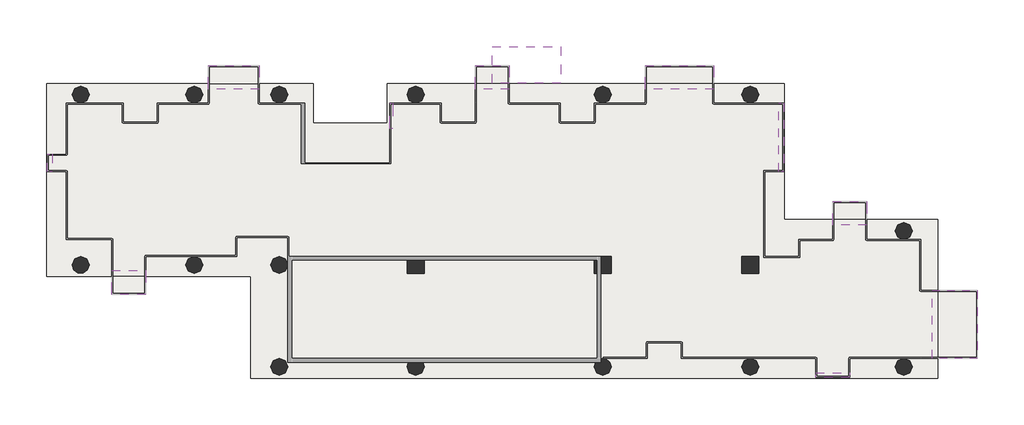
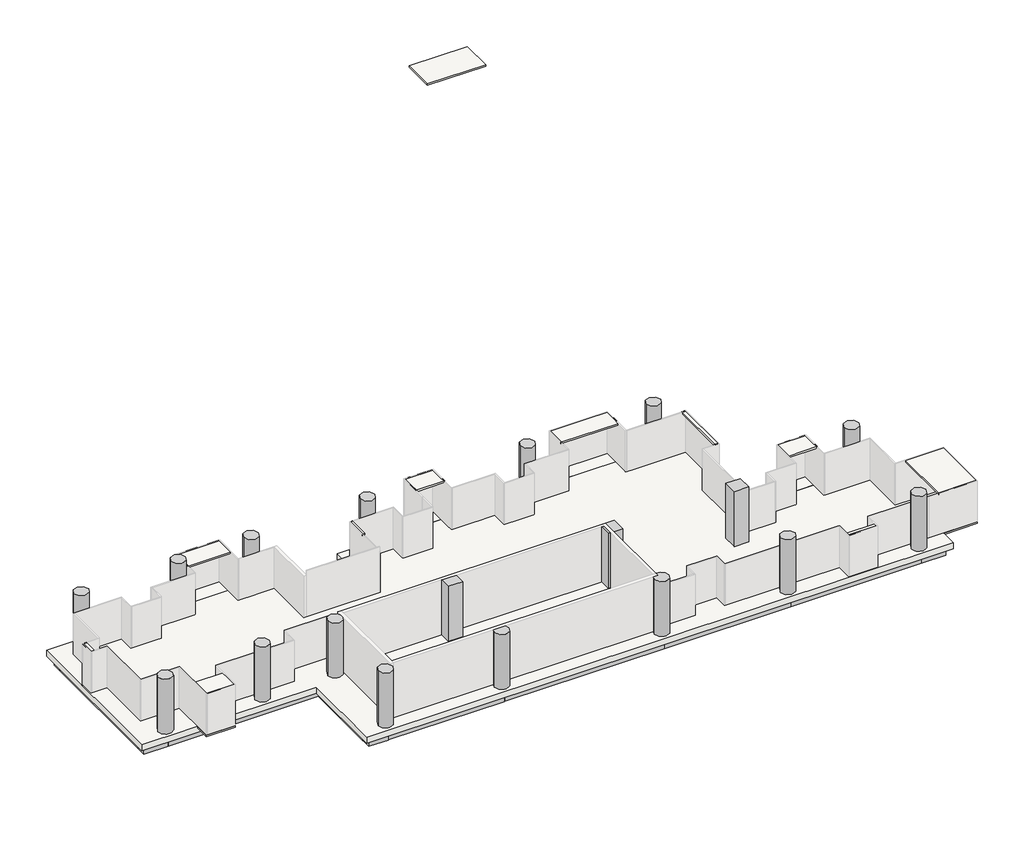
# One storey, part 2 of 2: 40 slabs, 25 beams, 18 columns.
"""IFC4 building model written with IfcOpenShell, lengths in millimetres."""

from ifc_helpers import new_model, si_unit, point, frame, frame_2d, origin, place, context, project, spatial, polyline, circle_curve, trimmed, segment, composite_curve, outline, extrude, transform, mapped, element, save
from ifc_brep_helpers import plane_surface, cylinder_surface, advanced_brep
from components import ajn_arc_ossature_rec_ba_700x600_5242ffbb, ajn_arc_ossature_rec_ba_700x600_213c05e2, ajn_arc_ossature_rec_ba_700x600_4d623bda, ajn_arc_ossature_rec_ba_700x600_c2a8f1af, ajn_arc_ossature_rec_ba_700x600_b2f97811, ajn_arc_ossature_rec_ba_700x600_e688680c, ajn_arc_ossature_rec_ba_700x600_8adee879, ajn_arc_ossature_rec_ba_700x600_6677e51c, ajn_arc_ossature_rec_ba_700x600_60e35d56, ajn_arc_ossature_rec_ba_700x600_9ae0f913, ajn_arc_ossature_rec_ba_700x600_5c14351b, ajn_arc_ossature_rec_ba_700x600_e883967f, ajn_arc_ossature_rec_ba_700x600_0984b03c, ajn_arc_ossature_rec_ba_700x600_78f846f2, ajn_arc_ossature_rec_ba_700x600_e869caa8, ajn_arc_ossature_rec_ba_700x600_0388eb48, ajn_arc_ossature_rec_ba_700x600_e143517c, ajn_arc_ossature_rec_ba_700x600_758f1bfa, ajn_arc_ossature_rec_ba_700x600_64ba80e1, ajn_arc_poteau_circulaire_9c1f96e0

model = new_model("IFC4")

# Units and contexts
model_context = context("Model", 3, world=origin())
ifc_project = project(units=[si_unit("LENGTHUNIT", "METRE", prefix="MILLI")], contexts=[model_context])

# Site, building, storey
site = spatial("IfcSite", under=ifc_project)
building = spatial("IfcBuilding", under=site)
storey = spatial("IfcBuildingStorey", under=building, Name="TW-L 10", Elevation=35199.9999686)

# Beams
placement = place(None, origin())
ajn_arc_ossature_rec_ba_700x600_shape = ajn_arc_ossature_rec_ba_700x600_5242ffbb(model_context)
element("IfcBeam", 1, ObjectType="AJN-ARC-OSSATURE REC-BA : 700x600", at=placement, inside=storey, context=model_context, shape_type="MappedRepresentation", body=[
    mapped(ajn_arc_ossature_rec_ba_700x600_shape, transform((119350.0, 39300.0, 34649.9999686), x_axis=(-1.0, 0.0, 0.0), y_axis=(0.0, -1.0, 0.0), z_axis=(0.0, 0.0, 1.0))),
])
ajn_arc_ossature_rec_ba_700x600_2_shape = ajn_arc_ossature_rec_ba_700x600_213c05e2(model_context)
element("IfcBeam", 2, ObjectType="AJN-ARC-OSSATURE REC-BA : 700x600", at=placement, inside=storey, context=model_context, shape_type="MappedRepresentation", body=[
    mapped(ajn_arc_ossature_rec_ba_700x600_2_shape, transform((100900.0, 34800.0, 34649.9999686), x_axis=(0.0, -1.0, 0.0), y_axis=(1.0, 0.0, 0.0), z_axis=(0.0, 0.0, 1.0))),
])
ajn_arc_ossature_rec_ba_700x600_3_shape = ajn_arc_ossature_rec_ba_700x600_4d623bda(model_context)
element("IfcBeam", 3, ObjectType="AJN-ARC-OSSATURE REC-BA : 700x600", at=placement, inside=storey, context=model_context, shape_type="MappedRepresentation", body=[
    mapped(ajn_arc_ossature_rec_ba_700x600_3_shape, transform((112150.0, 24900.0, 34649.9999686), x_axis=(1.0, 0.0, 0.0), y_axis=(0.0, 1.0, 0.0), z_axis=(0.0, 0.0, 1.0))),
])
ajn_arc_ossature_rec_ba_700x600_4_shape = ajn_arc_ossature_rec_ba_700x600_c2a8f1af(model_context)
element("IfcBeam", 4, ObjectType="AJN-ARC-OSSATURE REC-BA : 700x600", at=placement, inside=storey, context=model_context, shape_type="MappedRepresentation", body=[
    mapped(ajn_arc_ossature_rec_ba_700x600_4_shape, transform((116200.0, 24900.0, 34649.9999686), x_axis=(1.0, 0.0, 0.0), y_axis=(0.0, 1.0, 0.0), z_axis=(0.0, 0.0, 1.0))),
])
ajn_arc_ossature_rec_ba_700x600_5_shape = ajn_arc_ossature_rec_ba_700x600_b2f97811(model_context)
element("IfcBeam", 5, ObjectType="AJN-ARC-OSSATURE REC-BA : 700x600", at=placement, inside=storey, context=model_context, shape_type="MappedRepresentation", body=[
    mapped(ajn_arc_ossature_rec_ba_700x600_5_shape, transform((106900.0, 30300.0, 34649.9999686), x_axis=(1.0, 0.0, 0.0), y_axis=(0.0, 1.0, 0.0), z_axis=(0.0, 0.0, 1.0))),
])
ajn_arc_ossature_rec_ba_700x600_6_shape = ajn_arc_ossature_rec_ba_700x600_e688680c(model_context)
element("IfcBeam", 6, ObjectType="AJN-ARC-OSSATURE REC-BA : 700x600", at=placement, inside=storey, context=model_context, shape_type="MappedRepresentation", body=[
    mapped(ajn_arc_ossature_rec_ba_700x600_6_shape, transform((111700.0, 27600.0, 34649.9999686), x_axis=(0.0, -1.0, 0.0), y_axis=(1.0, 0.0, 0.0), z_axis=(0.0, 0.0, 1.0))),
])
ajn_arc_ossature_rec_ba_700x600_7_shape = ajn_arc_ossature_rec_ba_700x600_8adee879(model_context)
element("IfcBeam", 7, ObjectType="AJN-ARC-OSSATURE REC-BA : 700x600", at=placement, inside=storey, context=model_context, shape_type="MappedRepresentation", body=[
    mapped(ajn_arc_ossature_rec_ba_700x600_7_shape, transform((124750.0, 24900.0, 34649.9999686), x_axis=(1.0, 0.0, 0.0), y_axis=(0.0, 1.0, 0.0), z_axis=(0.0, 0.0, 1.0))),
])
element("IfcBeam", 8, ObjectType="AJN-ARC-OSSATURE REC-BA : 700x600", at=placement, inside=storey, context=model_context, shape_type="MappedRepresentation", body=[
    mapped(ajn_arc_ossature_rec_ba_700x600_7_shape, transform((124750.0, 39300.0, 34649.9999686), x_axis=(-1.0, 0.0, 0.0), y_axis=(0.0, -1.0, 0.0), z_axis=(0.0, 0.0, 1.0))),
])
ajn_arc_ossature_rec_ba_700x600_8_shape = ajn_arc_ossature_rec_ba_700x600_6677e51c(model_context)
element("IfcBeam", 9, ObjectType="AJN-ARC-OSSATURE REC-BA : 700x600", at=placement, inside=storey, context=model_context, shape_type="MappedRepresentation", body=[
    mapped(ajn_arc_ossature_rec_ba_700x600_8_shape, transform((133600.0, 24900.0, 34649.9999686), x_axis=(1.0, 0.0, 0.0), y_axis=(0.0, 1.0, 0.0), z_axis=(0.0, 0.0, 1.0))),
])
ajn_arc_ossature_rec_ba_700x600_9_shape = ajn_arc_ossature_rec_ba_700x600_60e35d56(model_context)
element("IfcBeam", 10, ObjectType="AJN-ARC-OSSATURE REC-BA : 700x600", at=placement, inside=storey, context=model_context, shape_type="MappedRepresentation", body=[
    mapped(ajn_arc_ossature_rec_ba_700x600_9_shape, transform((141550.0, 24900.0, 34649.9999686), x_axis=(1.0, 0.0, 0.0), y_axis=(0.0, 1.0, 0.0), z_axis=(0.0, 0.0, 1.0))),
])
ajn_arc_ossature_rec_ba_700x600_10_shape = ajn_arc_ossature_rec_ba_700x600_9ae0f913(model_context)
element("IfcBeam", 11, ObjectType="AJN-ARC-OSSATURE REC-BA : 700x600", at=placement, inside=storey, context=model_context, shape_type="MappedRepresentation", body=[
    mapped(ajn_arc_ossature_rec_ba_700x600_10_shape, transform((146200.0, 24900.0, 34649.9999686), x_axis=(1.0, 0.0, 0.0), y_axis=(0.0, 1.0, 0.0), z_axis=(0.0, 0.0, 1.0))),
])
element("IfcBeam", 12, ObjectType="AJN-ARC-OSSATURE REC-BA : 700x600", at=placement, inside=storey, context=model_context, shape_type="MappedRepresentation", body=[
    mapped(ajn_arc_ossature_rec_ba_700x600_10_shape, transform((101500.0, 39300.0, 34649.9999686), x_axis=(-1.0, 0.0, 0.0), y_axis=(0.0, -1.0, 0.0), z_axis=(0.0, 0.0, 1.0))),
])
ajn_arc_ossature_rec_ba_700x600_11_shape = ajn_arc_ossature_rec_ba_700x600_5c14351b(model_context)
element("IfcBeam", 13, ObjectType="AJN-ARC-OSSATURE REC-BA : 700x600", at=placement, inside=storey, context=model_context, shape_type="MappedRepresentation", body=[
    mapped(ajn_arc_ossature_rec_ba_700x600_11_shape, transform((146800.0, 28500.0, 34649.9999686), x_axis=(0.0, 1.0, 0.0), y_axis=(-1.0, 0.0, 0.0), z_axis=(0.0, 0.0, 1.0))),
])
element("IfcBeam", 14, ObjectType="AJN-ARC-OSSATURE REC-BA : 700x600", at=placement, inside=storey, context=model_context, shape_type="MappedRepresentation", body=[
    mapped(ajn_arc_ossature_rec_ba_700x600_11_shape, transform((138700.0, 35700.0, 34649.9999686), x_axis=(0.0, 1.0, 0.0), y_axis=(-1.0, 0.0, 0.0), z_axis=(0.0, 0.0, 1.0))),
])
ajn_arc_ossature_rec_ba_700x600_12_shape = ajn_arc_ossature_rec_ba_700x600_e883967f(model_context)
element("IfcBeam", 15, ObjectType="AJN-ARC-OSSATURE REC-BA : 700x600", at=placement, inside=storey, context=model_context, shape_type="MappedRepresentation", body=[
    mapped(ajn_arc_ossature_rec_ba_700x600_12_shape, transform((146200.0, 32100.0, 34649.9999686), x_axis=(-1.0, 0.0, 0.0), y_axis=(0.0, -1.0, 0.0), z_axis=(0.0, 0.0, 1.0))),
])
element("IfcBeam", 16, ObjectType="AJN-ARC-OSSATURE REC-BA : 700x600", at=placement, inside=storey, context=model_context, shape_type="MappedRepresentation", body=[
    mapped(ajn_arc_ossature_rec_ba_700x600_12_shape, transform((138100.0, 39300.0, 34649.9999686), x_axis=(-1.0, 0.0, 0.0), y_axis=(0.0, -1.0, 0.0), z_axis=(0.0, 0.0, 1.0))),
])
element("IfcBeam", 17, ObjectType="AJN-ARC-OSSATURE REC-BA : 700x600", at=placement, inside=storey, context=model_context, shape_type="MappedRepresentation", body=[
    mapped(ajn_arc_ossature_rec_ba_700x600_12_shape, transform((113200.0, 39300.0, 34649.9999686), x_axis=(-1.0, 0.0, 0.0), y_axis=(0.0, -1.0, 0.0), z_axis=(0.0, 0.0, 1.0))),
])
element("IfcBeam", 18, ObjectType="AJN-ARC-OSSATURE REC-BA : 700x600", at=placement, inside=storey, context=model_context, shape_type="MappedRepresentation", body=[
    mapped(ajn_arc_ossature_rec_ba_700x600_12_shape, transform((101500.0, 30300.0, 34649.9999686), x_axis=(1.0, 0.0, 0.0), y_axis=(0.0, 1.0, 0.0), z_axis=(0.0, 0.0, 1.0))),
])
ajn_arc_ossature_rec_ba_700x600_13_shape = ajn_arc_ossature_rec_ba_700x600_0984b03c(model_context)
element("IfcBeam", 19, ObjectType="AJN-ARC-OSSATURE REC-BA : 700x600", at=placement, inside=storey, context=model_context, shape_type="MappedRepresentation", body=[
    mapped(ajn_arc_ossature_rec_ba_700x600_13_shape, transform((142150.0, 32100.0, 34649.9999686), x_axis=(-1.0, 0.0, 0.0), y_axis=(0.0, -1.0, 0.0), z_axis=(0.0, 0.0, 1.0))),
])
ajn_arc_ossature_rec_ba_700x600_14_shape = ajn_arc_ossature_rec_ba_700x600_78f846f2(model_context)
element("IfcBeam", 20, ObjectType="AJN-ARC-OSSATURE REC-BA : 700x600", at=placement, inside=storey, context=model_context, shape_type="MappedRepresentation", body=[
    mapped(ajn_arc_ossature_rec_ba_700x600_14_shape, transform((133600.0, 39300.0, 34649.9999686), x_axis=(-1.0, 0.0, 0.0), y_axis=(0.0, -1.0, 0.0), z_axis=(0.0, 0.0, 1.0))),
])
ajn_arc_ossature_rec_ba_700x600_15_shape = ajn_arc_ossature_rec_ba_700x600_e869caa8(model_context)
element("IfcBeam", 21, ObjectType="AJN-ARC-OSSATURE REC-BA : 700x600", at=placement, inside=storey, context=model_context, shape_type="MappedRepresentation", body=[
    mapped(ajn_arc_ossature_rec_ba_700x600_15_shape, transform((118900.0, 38250.0, 34649.9999686), x_axis=(0.0, -1.0, 0.0), y_axis=(1.0, 0.0, 0.0), z_axis=(0.0, 0.0, 1.0))),
])
ajn_arc_ossature_rec_ba_700x600_16_shape = ajn_arc_ossature_rec_ba_700x600_0388eb48(model_context)
element("IfcBeam", 22, ObjectType="AJN-ARC-OSSATURE REC-BA : 700x600", at=placement, inside=storey, context=model_context, shape_type="MappedRepresentation", body=[
    mapped(ajn_arc_ossature_rec_ba_700x600_16_shape, transform((110350.0, 39300.0, 34649.9999686), x_axis=(-1.0, 0.0, 0.0), y_axis=(0.0, -1.0, 0.0), z_axis=(0.0, 0.0, 1.0))),
])
ajn_arc_ossature_rec_ba_700x600_17_shape = ajn_arc_ossature_rec_ba_700x600_e143517c(model_context)
element("IfcBeam", 23, ObjectType="AJN-ARC-OSSATURE REC-BA : 700x600", at=placement, inside=storey, context=model_context, shape_type="MappedRepresentation", body=[
    mapped(ajn_arc_ossature_rec_ba_700x600_17_shape, transform((105100.0, 39300.0, 34649.9999686), x_axis=(-1.0, 0.0, 0.0), y_axis=(0.0, -1.0, 0.0), z_axis=(0.0, 0.0, 1.0))),
])
ajn_arc_ossature_rec_ba_700x600_18_shape = ajn_arc_ossature_rec_ba_700x600_758f1bfa(model_context)
element("IfcBeam", 24, ObjectType="AJN-ARC-OSSATURE REC-BA : 700x600", at=placement, inside=storey, context=model_context, shape_type="MappedRepresentation", body=[
    mapped(ajn_arc_ossature_rec_ba_700x600_18_shape, transform((116350.0, 37200.0, 34649.9999686), x_axis=(-1.0, 0.0, 0.0), y_axis=(0.0, -1.0, 0.0), z_axis=(0.0, 0.0, 1.0))),
])
ajn_arc_ossature_rec_ba_700x600_19_shape = ajn_arc_ossature_rec_ba_700x600_64ba80e1(model_context)
element("IfcBeam", 25, ObjectType="AJN-ARC-OSSATURE REC-BA : 700x600", at=placement, inside=storey, context=model_context, shape_type="MappedRepresentation", body=[
    mapped(ajn_arc_ossature_rec_ba_700x600_19_shape, transform((113800.0, 38250.0, 34649.9999686), x_axis=(0.0, 1.0, 0.0), y_axis=(-1.0, 0.0, 0.0), z_axis=(0.0, 0.0, 1.0))),
])

# Columns
element("IfcColumn", 26, ObjectType="AJN-ARC-POTEAU CIRCULAIRE : ø90", at=placement, inside=storey, context=model_context, shape_type="SweptSolid", body=[
    extrude(outline(composite_curve([segment(trimmed(circle_curve(frame_2d((102100.0, 39300.0)), 450.0), [point((101650.0, 39300.0))], [point((102550.0, 39300.0))], False, "CARTESIAN"), True, "CONTINUOUS"), segment(trimmed(circle_curve(frame_2d((102100.0, 39300.0)), 450.0), [point((102550.0, 39300.0))], [point((101650.0, 39300.0))], False, "CARTESIAN"), True, "CONTINUOUS")], self_intersect=False)), frame((0.0, 0.0, 35199.9999686), z_axis=(0.0, 0.0, 1.0), x_axis=(1.0, 0.0, 0.0)), (0.0, 0.0, 1.0), 3600.0),
])
element("IfcColumn", 27, ObjectType="AJN-ARC-POTEAU CIRCULAIRE : ø90", at=placement, inside=storey, context=model_context, shape_type="SweptSolid", body=[
    extrude(outline(composite_curve([segment(trimmed(circle_curve(frame_2d((108100.0, 30300.0)), 450.0), [point((107650.0, 30300.0))], [point((108550.0, 30300.0))], False, "CARTESIAN"), True, "CONTINUOUS"), segment(trimmed(circle_curve(frame_2d((108100.0, 30300.0)), 450.0), [point((108550.0, 30300.0))], [point((107650.0, 30300.0))], False, "CARTESIAN"), True, "CONTINUOUS")], self_intersect=False)), frame((0.0, 0.0, 35199.9999686), z_axis=(0.0, 0.0, 1.0), x_axis=(1.0, 0.0, 0.0)), (0.0, 0.0, 1.0), 3600.0),
])
element("IfcColumn", 28, ObjectType="AJN-ARC-POTEAU CIRCULAIRE : ø90", at=placement, inside=storey, context=model_context, shape_type="SweptSolid", body=[
    extrude(outline(composite_curve([segment(trimmed(circle_curve(frame_2d((108100.0, 39300.0)), 450.0), [point((107650.0, 39300.0))], [point((108550.0, 39300.0))], False, "CARTESIAN"), True, "CONTINUOUS"), segment(trimmed(circle_curve(frame_2d((108100.0, 39300.0)), 450.0), [point((108550.0, 39300.0))], [point((107650.0, 39300.0))], False, "CARTESIAN"), True, "CONTINUOUS")], self_intersect=False)), frame((0.0, 0.0, 35199.9999686), z_axis=(0.0, 0.0, 1.0), x_axis=(1.0, 0.0, 0.0)), (0.0, 0.0, 1.0), 3600.0),
])
element("IfcColumn", 29, ObjectType="AJN-ARC-POTEAU CIRCULAIRE : ø90", at=placement, inside=storey, context=model_context, shape_type="SweptSolid", body=[
    extrude(outline(composite_curve([segment(trimmed(circle_curve(frame_2d((112600.0, 39300.0)), 450.0), [point((112150.0, 39300.0))], [point((113050.0, 39300.0))], False, "CARTESIAN"), True, "CONTINUOUS"), segment(trimmed(circle_curve(frame_2d((112600.0, 39300.0)), 450.0), [point((113050.0, 39300.0))], [point((112150.0, 39300.0))], False, "CARTESIAN"), True, "CONTINUOUS")], self_intersect=False)), frame((0.0, 0.0, 35199.9999686), z_axis=(0.0, 0.0, 1.0), x_axis=(1.0, 0.0, 0.0)), (0.0, 0.0, 1.0), 3600.0),
])
element("IfcColumn", 30, ObjectType="AJN-ARC-POTEAU CIRCULAIRE : ø90", at=placement, inside=storey, context=model_context, shape_type="SweptSolid", body=[
    extrude(outline(composite_curve([segment(trimmed(circle_curve(frame_2d((112600.0, 30300.0)), 450.0), [point((112150.0, 30300.0))], [point((113050.0, 30300.0))], False, "CARTESIAN"), True, "CONTINUOUS"), segment(trimmed(circle_curve(frame_2d((112600.0, 30300.0)), 450.0), [point((113050.0, 30300.0))], [point((112150.0, 30300.0))], False, "CARTESIAN"), True, "CONTINUOUS")], self_intersect=False)), frame((0.0, 0.0, 35199.9999686), z_axis=(0.0, 0.0, 1.0), x_axis=(1.0, 0.0, 0.0)), (0.0, 0.0, 1.0), 3600.0),
])
element("IfcColumn", 31, ObjectType="AJN-ARC-POTEAU CIRCULAIRE : ø90", at=placement, inside=storey, context=model_context, shape_type="SweptSolid", body=[
    extrude(outline(composite_curve([segment(trimmed(circle_curve(frame_2d((112600.0, 24900.0)), 450.0), [point((112150.0, 24900.0))], [point((113050.0, 24900.0))], False, "CARTESIAN"), True, "CONTINUOUS"), segment(trimmed(circle_curve(frame_2d((112600.0, 24900.0)), 450.0), [point((113050.0, 24900.0))], [point((112150.0, 24900.0))], False, "CARTESIAN"), True, "CONTINUOUS")], self_intersect=False)), frame((0.0, 0.0, 35199.9999686), z_axis=(0.0, 0.0, 1.0), x_axis=(1.0, 0.0, 0.0)), (0.0, 0.0, 1.0), 3600.0),
])
element("IfcColumn", 32, ObjectType="AJN-ARC-POTEAU CIRCULAIRE : ø90", at=placement, inside=storey, context=model_context, shape_type="SweptSolid", body=[
    extrude(outline(composite_curve([segment(trimmed(circle_curve(frame_2d((119800.0, 24900.0)), 450.0), [point((120250.0, 24900.0))], [point((119350.0, 24900.0))], False, "CARTESIAN"), True, "CONTINUOUS"), segment(trimmed(circle_curve(frame_2d((119800.0, 24900.0)), 450.0), [point((119350.0, 24900.0))], [point((119425.8342613, 25150.0))], False, "CARTESIAN"), True, "CONTINUOUS"), segment(polyline([(119425.8342613, 25150.0), (120174.1657387, 25150.0)]), True, "CONTINUOUS"), segment(trimmed(circle_curve(frame_2d((119800.0, 24900.0)), 450.0), [point((120174.1657387, 25150.0))], [point((120250.0, 24900.0))], False, "CARTESIAN"), True, "CONTINUOUS")], self_intersect=False)), frame((0.0, 0.0, 35199.9999686), z_axis=(0.0, 0.0, 1.0), x_axis=(1.0, 0.0, 0.0)), (0.0, 0.0, 1.0), 3600.0),
])
element("IfcColumn", 33, ObjectType="AJN-ARC-POTEAU CIRCULAIRE : ø90", at=placement, inside=storey, context=model_context, shape_type="SweptSolid", body=[
    extrude(outline(composite_curve([segment(trimmed(circle_curve(frame_2d((119800.0, 39300.0)), 450.0), [point((119350.0, 39300.0))], [point((120250.0, 39300.0))], False, "CARTESIAN"), True, "CONTINUOUS"), segment(trimmed(circle_curve(frame_2d((119800.0, 39300.0)), 450.0), [point((120250.0, 39300.0))], [point((119350.0, 39300.0))], False, "CARTESIAN"), True, "CONTINUOUS")], self_intersect=False)), frame((0.0, 0.0, 35199.9999686), z_axis=(0.0, 0.0, 1.0), x_axis=(1.0, 0.0, 0.0)), (0.0, 0.0, 1.0), 3600.0),
])
element("IfcColumn", 34, ObjectType="AJN-ARC-POTEAU CIRCULAIRE : ø90", at=placement, inside=storey, context=model_context, shape_type="SweptSolid", body=[
    extrude(outline(composite_curve([segment(trimmed(circle_curve(frame_2d((129700.0, 39300.0)), 450.0), [point((129250.0, 39300.0))], [point((130150.0, 39300.0))], False, "CARTESIAN"), True, "CONTINUOUS"), segment(trimmed(circle_curve(frame_2d((129700.0, 39300.0)), 450.0), [point((130150.0, 39300.0))], [point((129250.0, 39300.0))], False, "CARTESIAN"), True, "CONTINUOUS")], self_intersect=False)), frame((0.0, 0.0, 35199.9999686), z_axis=(0.0, 0.0, 1.0), x_axis=(1.0, 0.0, 0.0)), (0.0, 0.0, 1.0), 3600.0),
])
element("IfcColumn", 35, ObjectType="AJN-ARC-POTEAU CIRCULAIRE : ø90", at=placement, inside=storey, context=model_context, shape_type="SweptSolid", body=[
    extrude(outline(composite_curve([segment(trimmed(circle_curve(frame_2d((129700.0, 24900.0)), 450.0), [point((130150.0, 24900.0))], [point((129250.0, 24900.0))], False, "CARTESIAN"), True, "CONTINUOUS"), segment(trimmed(circle_curve(frame_2d((129700.0, 24900.0)), 450.0), [point((129250.0, 24900.0))], [point((129325.8342613, 25150.0))], False, "CARTESIAN"), True, "CONTINUOUS"), segment(polyline([(129325.8342613, 25150.0), (129600.0, 25150.0), (129600.0, 25338.7482194)]), True, "CONTINUOUS"), segment(trimmed(circle_curve(frame_2d((129700.0, 24900.0)), 450.0), [point((129600.0, 25338.7482194))], [point((130150.0, 24900.0))], False, "CARTESIAN"), True, "CONTINUOUS")], self_intersect=False)), frame((0.0, 0.0, 35199.9999686), z_axis=(0.0, 0.0, 1.0), x_axis=(1.0, 0.0, 0.0)), (0.0, 0.0, 1.0), 3600.0),
])
element("IfcColumn", 36, ObjectType="AJN-ARC-POTEAU CIRCULAIRE : ø90", at=placement, inside=storey, context=model_context, shape_type="SweptSolid", body=[
    extrude(outline(composite_curve([segment(trimmed(circle_curve(frame_2d((137500.0, 39300.0)), 450.0), [point((137050.0, 39300.0))], [point((137950.0, 39300.0))], False, "CARTESIAN"), True, "CONTINUOUS"), segment(trimmed(circle_curve(frame_2d((137500.0, 39300.0)), 450.0), [point((137950.0, 39300.0))], [point((137050.0, 39300.0))], False, "CARTESIAN"), True, "CONTINUOUS")], self_intersect=False)), frame((0.0, 0.0, 35199.9999686), z_axis=(0.0, 0.0, 1.0), x_axis=(1.0, 0.0, 0.0)), (0.0, 0.0, 1.0), 3600.0),
])
element("IfcColumn", 37, ObjectType="AJN-ARC-POTEAU CIRCULAIRE : ø90", at=placement, inside=storey, context=model_context, shape_type="SweptSolid", body=[
    extrude(outline(composite_curve([segment(trimmed(circle_curve(frame_2d((137500.0, 24900.0)), 450.0), [point((137050.0, 24900.0))], [point((137950.0, 24900.0))], False, "CARTESIAN"), True, "CONTINUOUS"), segment(trimmed(circle_curve(frame_2d((137500.0, 24900.0)), 450.0), [point((137950.0, 24900.0))], [point((137050.0, 24900.0))], False, "CARTESIAN"), True, "CONTINUOUS")], self_intersect=False)), frame((0.0, 0.0, 35199.9999686), z_axis=(0.0, 0.0, 1.0), x_axis=(1.0, 0.0, 0.0)), (0.0, 0.0, 1.0), 3600.0),
])
element("IfcColumn", 38, ObjectType="AJN-ARC-POTEAU CIRCULAIRE : ø90", at=placement, inside=storey, context=model_context, shape_type="SweptSolid", body=[
    extrude(outline(composite_curve([segment(trimmed(circle_curve(frame_2d((145600.0, 24900.0)), 450.0), [point((145150.0, 24900.0))], [point((146050.0, 24900.0))], False, "CARTESIAN"), True, "CONTINUOUS"), segment(trimmed(circle_curve(frame_2d((145600.0, 24900.0)), 450.0), [point((146050.0, 24900.0))], [point((145150.0, 24900.0))], False, "CARTESIAN"), True, "CONTINUOUS")], self_intersect=False)), frame((0.0, 0.0, 35199.9999686), z_axis=(0.0, 0.0, 1.0), x_axis=(1.0, 0.0, 0.0)), (0.0, 0.0, 1.0), 3600.0),
])
element("IfcColumn", 39, ObjectType="AJN-ARC-POTEAU CIRCULAIRE : ø90", at=placement, inside=storey, context=model_context, shape_type="AdvancedBrep", body=[
    advanced_brep(
    [(145150.0, 32100.0, 35199.9999686), (146050.0, 32100.0, 35199.9999686), (145638.6089983, 31651.6593424, 35199.9999686), (145561.3910017, 31651.6593424, 35199.9999686), (145150.0, 32100.0, 38799.9999686), (146050.0, 32100.0, 38799.9999686), (145561.3910017, 31651.6593424, 37899.9999686), (145638.6089983, 31651.6593424, 37899.9999686)],
    [
        (0, 1, circle_curve(frame((145600.0, 32100.0, 35199.9999686), z_axis=(0.0, 0.0, -1.0), x_axis=(1.0, 0.0, 0.0)), 450.0)),
        (1, 2, circle_curve(frame((145600.0, 32100.0, 35199.9999686), z_axis=(0.0, 0.0, -1.0), x_axis=(1.0, 0.0, 0.0)), 450.0)),
        (2, 3),
        (3, 0, circle_curve(frame((145600.0, 32100.0, 35199.9999686), z_axis=(0.0, 0.0, -1.0), x_axis=(1.0, 0.0, 0.0)), 450.0)),
        (0, 4),
        (4, 5, circle_curve(frame((145600.0, 32100.0, 38799.9999686), z_axis=(0.0, 0.0, -1.0), x_axis=(1.0, 0.0, 0.0)), 450.0)),
        (5, 1),
        (5, 4, circle_curve(frame((145600.0, 32100.0, 38799.9999686), z_axis=(0.0, 0.0, -1.0), x_axis=(1.0, 0.0, 0.0)), 450.0)),
        (3, 6),
        (6, 7, circle_curve(frame((145600.0, 32100.0, 37899.9999686), z_axis=(0.0, 0.0, 1.0), x_axis=(1.0, 0.0, 0.0)), 450.0)),
        (7, 2),
        (7, 6),
    ],
    [
        plane_surface(frame((146050.0, 32100.0, 35199.9999686), z_axis=(0.0, 0.0, -1.0), x_axis=(0.0, -1.0, 0.0))),
        cylinder_surface(frame((145600.0, 32100.0, 35199.9999686), z_axis=(0.0, 0.0, 1.0), x_axis=(1.0, 0.0, 0.0)), 450.0),
        plane_surface(frame((146050.0, 32100.0, 38799.9999686), z_axis=(0.0, 0.0, 1.0), x_axis=(0.0, 1.0, 0.0))),
        plane_surface(frame((146472.681474, 31651.6593424, 35199.9999686), z_axis=(0.0, -1.0, 0.0), x_axis=(-1.0, 0.0, 0.0))),
        plane_surface(frame((143657.0344085, 31651.6593424, 37899.9999686), z_axis=(0.0, 0.0, -1.0), x_axis=(0.0, -1.0, 0.0))),
    ],
    [
        (0, [[1, 2, 3, 4]]),
        (1, [[-1, 5, 6, 7]]),
        (1, [[-7, 8, -5, -4, 9, 10, 11, -2]]),
        (2, [[-6, -8]]),
        (3, [[12, -9, -3, -11]]),
        (4, [[-12, -10]]),
    ],
),
])
ajn_arc_poteau_circulaire_shape = ajn_arc_poteau_circulaire_9c1f96e0(model_context)
element("IfcColumn", 40, ObjectType="AJN-ARC-POTEAU CIRCULAIRE : ø90", at=placement, inside=storey, context=model_context, shape_type="MappedRepresentation", body=[
    mapped(ajn_arc_poteau_circulaire_shape, transform((102100.0, 30300.0, 0.0), x_axis=(1.0, 0.0, 0.0), y_axis=(0.0, 1.0, 0.0), z_axis=(0.0, 0.0, 1.0))),
])
element("IfcColumn", 41, ObjectType="AJN-ARC-POTEAU RECTANGULAIRE : 900 mm x 900 mm", at=placement, inside=storey, context=model_context, shape_type="SweptSolid", body=[
    extrude(outline(polyline([(137950.0, 30750.0), (137950.0, 29850.0), (137050.0, 29850.0), (137050.0, 30750.0), (137950.0, 30750.0)])), frame((0.0, 0.0, 35199.9999686), z_axis=(0.0, 0.0, 1.0), x_axis=(1.0, 0.0, 0.0)), (0.0, 0.0, 1.0), 3600.0),
])
element("IfcColumn", 42, ObjectType="AJN-ARC-POTEAU RECTANGULAIRE : 900 mm x 900 mm", at=placement, inside=storey, context=model_context, shape_type="SweptSolid", body=[
    extrude(outline(polyline([(129400.0, 29850.0), (129250.0, 29850.0), (129250.0, 30550.0), (129400.0, 30550.0), (129400.0, 29850.0)])), frame((0.0, 0.0, 35199.9999686), z_axis=(0.0, 0.0, 1.0), x_axis=(1.0, 0.0, 0.0)), (0.0, 0.0, 1.0), 3600.0),
    extrude(outline(polyline([(130150.0, 30750.0), (130150.0, 29850.0), (129600.0, 29850.0), (129600.0, 30750.0), (130150.0, 30750.0)])), frame((0.0, 0.0, 35199.9999686), z_axis=(0.0, 0.0, 1.0), x_axis=(1.0, 0.0, 0.0)), (0.0, 0.0, 1.0), 3600.0),
])
element("IfcColumn", 43, ObjectType="AJN-ARC-POTEAU RECTANGULAIRE : 900 mm x 900 mm", at=placement, inside=storey, context=model_context, shape_type="SweptSolid", body=[
    extrude(outline(polyline([(120250.0, 29850.0), (119350.0, 29850.0), (119350.0, 30550.0), (120250.0, 30550.0), (120250.0, 29850.0)])), frame((0.0, 0.0, 35199.9999686), z_axis=(0.0, 0.0, 1.0), x_axis=(1.0, 0.0, 0.0)), (0.0, 0.0, 1.0), 3600.0),
])

# Slabs
element("IfcSlab", 44, ObjectType="AJN-ARC-SLAB-10cm", at=placement, inside=storey, context=model_context, shape_type="SweptSolid", body=[
    extrude(outline(polyline([(135550.0, 39900.0), (131950.0, 39900.0), (131950.0, 40850.0), (135550.0, 40850.0), (135550.0, 39900.0)])), frame((0.0, 0.0, 35099.9999686), z_axis=(0.0, 0.0, 1.0), x_axis=(1.0, 0.0, 0.0)), (0.0, 0.0, 1.0), 100.0),
])
element("IfcSlab", 45, ObjectType="AJN-ARC-SLAB-10cm", at=placement, inside=storey, context=model_context, shape_type="SweptSolid", body=[
    extrude(outline(polyline([(124761.0540705, 39900.0), (122961.0540705, 39900.0), (122961.0540705, 40850.0), (124761.0540705, 40850.0), (124761.0540705, 39900.0)])), frame((0.0, 0.0, 35099.9999686), z_axis=(0.0, 0.0, 1.0), x_axis=(1.0, 0.0, 0.0)), (0.0, 0.0, 1.0), 100.0),
])
element("IfcSlab", 46, ObjectType="AJN-ARC-SLAB-10cm", at=placement, inside=storey, context=model_context, shape_type="SweptSolid", body=[
    extrude(outline(polyline([(111550.0, 39900.0), (108850.0, 39900.0), (108850.0, 40850.0), (111550.0, 40850.0), (111550.0, 39900.0)])), frame((0.0, 0.0, 35099.9999686), z_axis=(0.0, 0.0, 1.0), x_axis=(1.0, 0.0, 0.0)), (0.0, 0.0, 1.0), 100.0),
])
element("IfcSlab", 47, ObjectType="AJN-ARC-SLAB-10cm", at=placement, inside=storey, context=model_context, shape_type="SweptSolid", body=[
    extrude(outline(polyline([(149497.681474, 25350.0), (147400.0, 25350.0), (147400.0, 28950.0), (149497.681474, 28950.0), (149497.681474, 25350.0)])), frame((0.0, 0.0, 35099.9999686), z_axis=(0.0, 0.0, 1.0), x_axis=(1.0, 0.0, 0.0)), (0.0, 0.0, 1.0), 100.0),
])
element("IfcSlab", 48, ObjectType="AJN-ARC-SLAB-10cm", at=placement, inside=storey, context=model_context, shape_type="SweptSolid", body=[
    extrude(outline(polyline([(143657.0344085, 32700.0), (141857.0344085, 32700.0), (141857.0344085, 33651.6593424), (143657.0344085, 33651.6593424), (143657.0344085, 32700.0)])), frame((0.0, 0.0, 35099.9999686), z_axis=(0.0, 0.0, 1.0), x_axis=(1.0, 0.0, 0.0)), (0.0, 0.0, 1.0), 100.0),
])
element("IfcSlab", 49, ObjectType="AJN-ARC-SLAB-10cm", at=placement, inside=storey, context=model_context, shape_type="SweptSolid", body=[
    extrude(outline(polyline([(105547.1743518, 28750.0), (103747.1743518, 28750.0), (103747.1743518, 29700.0), (105547.1743518, 29700.0), (105547.1743518, 28750.0)])), frame((0.0, 0.0, 35099.9999686), z_axis=(0.0, 0.0, 1.0), x_axis=(1.0, 0.0, 0.0)), (0.0, 0.0, 1.0), 100.0),
])
element("IfcSlab", 50, ObjectType="AJN-ARC-SLAB-10cm", at=placement, inside=storey, context=model_context, shape_type="SweptSolid", body=[
    extrude(outline(polyline([(105547.1743518, 28750.0), (103747.1743518, 28750.0), (103747.1743518, 29700.0), (105547.1743518, 29700.0), (105547.1743518, 28750.0)])), frame((0.0, 0.0, 35099.9999686), z_axis=(0.0, 0.0, 1.0), x_axis=(1.0, 0.0, 0.0)), (0.0, 0.0, 1.0), 100.0),
])
element("IfcSlab", 51, ObjectType="AJN-ARC-SLAB-10cm", at=placement, inside=storey, context=model_context, shape_type="SweptSolid", body=[
    extrude(outline(polyline([(105547.1743518, 28750.0), (103747.1743518, 28750.0), (103747.1743518, 29700.0), (105547.1743518, 29700.0), (105547.1743518, 28750.0)])), frame((0.0, 0.0, 35099.9999686), z_axis=(0.0, 0.0, 1.0), x_axis=(1.0, 0.0, 0.0)), (0.0, 0.0, 1.0), 100.0),
])
element("IfcSlab", 52, ObjectType="AJN-ARC-SLAB-10cm", at=placement, inside=storey, context=model_context, shape_type="SweptSolid", body=[
    extrude(outline(polyline([(105547.1743518, 28750.0), (103747.1743518, 28750.0), (103747.1743518, 29700.0), (105547.1743518, 29700.0), (105547.1743518, 28750.0)])), frame((0.0, 0.0, 35099.9999686), z_axis=(0.0, 0.0, 1.0), x_axis=(1.0, 0.0, 0.0)), (0.0, 0.0, 1.0), 100.0),
])
element("IfcSlab", 53, ObjectType="AJN-ARC-SLAB-10cm", at=placement, inside=storey, context=model_context, shape_type="SweptSolid", body=[
    extrude(outline(polyline([(105547.1743518, 28750.0), (103747.1743518, 28750.0), (103747.1743518, 29700.0), (105547.1743518, 29700.0), (105547.1743518, 28750.0)])), frame((0.0, 0.0, 35099.9999686), z_axis=(0.0, 0.0, 1.0), x_axis=(1.0, 0.0, 0.0)), (0.0, 0.0, 1.0), 100.0),
])
element("IfcSlab", 54, ObjectType="AJN-ARC-SLAB-10cm", at=placement, inside=storey, context=model_context, shape_type="SweptSolid", body=[
    extrude(outline(polyline([(105547.1743518, 28750.0), (103747.1743518, 28750.0), (103747.1743518, 29700.0), (105547.1743518, 29700.0), (105547.1743518, 28750.0)])), frame((0.0, 0.0, 35099.9999686), z_axis=(0.0, 0.0, 1.0), x_axis=(1.0, 0.0, 0.0)), (0.0, 0.0, 1.0), 100.0),
])
element("IfcSlab", 55, ObjectType="AJN-ARC-SLAB-10cm", at=placement, inside=storey, context=model_context, shape_type="SweptSolid", body=[
    extrude(outline(polyline([(105547.1743518, 28750.0), (103747.1743518, 28750.0), (103747.1743518, 29700.0), (105547.1743518, 29700.0), (105547.1743518, 28750.0)])), frame((0.0, 0.0, 35099.9999686), z_axis=(0.0, 0.0, 1.0), x_axis=(1.0, 0.0, 0.0)), (0.0, 0.0, 1.0), 100.0),
])
element("IfcSlab", 56, ObjectType="AJN-ARC-SLAB-10cm", at=placement, inside=storey, context=model_context, shape_type="SweptSolid", body=[
    extrude(outline(polyline([(105547.1743518, 28750.0), (103747.1743518, 28750.0), (103747.1743518, 29700.0), (105547.1743518, 29700.0), (105547.1743518, 28750.0)])), frame((0.0, 0.0, 35099.9999686), z_axis=(0.0, 0.0, 1.0), x_axis=(1.0, 0.0, 0.0)), (0.0, 0.0, 1.0), 100.0),
])
element("IfcSlab", 57, ObjectType="AJN-ARC-SLAB-10cm", at=placement, inside=storey, context=model_context, shape_type="SweptSolid", body=[
    extrude(outline(polyline([(105547.1743518, 28750.0), (103747.1743518, 28750.0), (103747.1743518, 29700.0), (105547.1743518, 29700.0), (105547.1743518, 28750.0)])), frame((0.0, 0.0, 35099.9999686), z_axis=(0.0, 0.0, 1.0), x_axis=(1.0, 0.0, 0.0)), (0.0, 0.0, 1.0), 100.0),
])
element("IfcSlab", 58, ObjectType="AJN-ARC-SLAB-10cm", at=placement, inside=storey, context=model_context, shape_type="SweptSolid", body=[
    extrude(outline(polyline([(105547.1743518, 28750.0), (103747.1743518, 28750.0), (103747.1743518, 29700.0), (105547.1743518, 29700.0), (105547.1743518, 28750.0)])), frame((0.0, 0.0, 35099.9999686), z_axis=(0.0, 0.0, 1.0), x_axis=(1.0, 0.0, 0.0)), (0.0, 0.0, 1.0), 100.0),
])
element("IfcSlab", 59, ObjectType="AJN-ARC-SLAB-10cm", at=placement, inside=storey, context=model_context, shape_type="SweptSolid", body=[
    extrude(outline(polyline([(105547.1743518, 28750.0), (103747.1743518, 28750.0), (103747.1743518, 29700.0), (105547.1743518, 29700.0), (105547.1743518, 28750.0)])), frame((0.0, 0.0, 35099.9999686), z_axis=(0.0, 0.0, 1.0), x_axis=(1.0, 0.0, 0.0)), (0.0, 0.0, 1.0), 100.0),
])
element("IfcSlab", 60, ObjectType="AJN-ARC-SLAB-10cm", at=placement, inside=storey, context=model_context, shape_type="SweptSolid", body=[
    extrude(outline(polyline([(105547.1743518, 28750.0), (103747.1743518, 28750.0), (103747.1743518, 29700.0), (105547.1743518, 29700.0), (105547.1743518, 28750.0)])), frame((0.0, 0.0, 35099.9999686), z_axis=(0.0, 0.0, 1.0), x_axis=(1.0, 0.0, 0.0)), (0.0, 0.0, 1.0), 100.0),
])
element("IfcSlab", 61, ObjectType="AJN-ARC-SLAB-10cm", at=placement, inside=storey, context=model_context, shape_type="SweptSolid", body=[
    extrude(outline(polyline([(105547.1743518, 28750.0), (103747.1743518, 28750.0), (103747.1743518, 29700.0), (105547.1743518, 29700.0), (105547.1743518, 28750.0)])), frame((0.0, 0.0, 35099.9999686), z_axis=(0.0, 0.0, 1.0), x_axis=(1.0, 0.0, 0.0)), (0.0, 0.0, 1.0), 100.0),
])
element("IfcSlab", 62, ObjectType="AJN-ARC-SLAB-10cm", at=placement, inside=storey, context=model_context, shape_type="SweptSolid", body=[
    extrude(outline(polyline([(105547.1743518, 28750.0), (103747.1743518, 28750.0), (103747.1743518, 29700.0), (105547.1743518, 29700.0), (105547.1743518, 28750.0)])), frame((0.0, 0.0, 35099.9999686), z_axis=(0.0, 0.0, 1.0), x_axis=(1.0, 0.0, 0.0)), (0.0, 0.0, 1.0), 100.0),
])
element("IfcSlab", 63, ObjectType="AJN-ARC-SLAB-10cm", at=placement, inside=storey, context=model_context, shape_type="SweptSolid", body=[
    extrude(outline(polyline([(111550.0, 39600.0), (108850.0, 39600.0), (108850.0, 40850.0), (111550.0, 40850.0), (111550.0, 39600.0)])), frame((0.0, 0.0, 37799.9999686), z_axis=(0.0, 0.0, 1.0), x_axis=(1.0, 0.0, 0.0)), (0.0, 0.0, 1.0), 100.0),
])
element("IfcSlab", 64, ObjectType="AJN-ARC-SLAB-10cm", at=placement, inside=storey, context=model_context, shape_type="SweptSolid", body=[
    extrude(outline(polyline([(143657.0344085, 32400.0), (141857.0344085, 32400.0), (141857.0344085, 33651.6593424), (143657.0344085, 33651.6593424), (143657.0344085, 32400.0)])), frame((0.0, 0.0, 37799.9999686), z_axis=(0.0, 0.0, 1.0), x_axis=(1.0, 0.0, 0.0)), (0.0, 0.0, 1.0), 100.0),
])
element("IfcSlab", 65, ObjectType="AJN-ARC-SLAB-10cm", at=placement, inside=storey, context=model_context, shape_type="SweptSolid", body=[
    extrude(outline(polyline([(149497.681474, 25350.0), (147100.0, 25350.0), (147100.0, 28950.0), (149497.681474, 28950.0), (149497.681474, 25350.0)])), frame((0.0, 0.0, 37799.9999686), z_axis=(0.0, 0.0, 1.0), x_axis=(1.0, 0.0, 0.0)), (0.0, 0.0, 1.0), 100.0),
])
element("IfcSlab", 66, ObjectType="AJN-ARC-SLAB-10cm", at=placement, inside=storey, context=model_context, shape_type="SweptSolid", body=[
    extrude(outline(polyline([(139250.0, 35250.0), (139000.0, 35250.0), (139000.0, 38850.0), (139250.0, 38850.0), (139250.0, 35250.0)])), frame((0.0, 0.0, 37799.9999686), z_axis=(0.0, 0.0, 1.0), x_axis=(1.0, 0.0, 0.0)), (0.0, 0.0, 1.0), 100.0),
])
element("IfcSlab", 67, ObjectType="AJN-ARC-SLAB-10cm", at=placement, inside=storey, context=model_context, shape_type="SweptSolid", body=[
    extrude(outline(polyline([(135550.0, 39600.0), (131950.0, 39600.0), (131950.0, 40850.0), (135550.0, 40850.0), (135550.0, 39600.0)])), frame((0.0, 0.0, 37799.9999686), z_axis=(0.0, 0.0, 1.0), x_axis=(1.0, 0.0, 0.0)), (0.0, 0.0, 1.0), 100.0),
])
element("IfcSlab", 68, ObjectType="AJN-ARC-SLAB-10cm", at=placement, inside=storey, context=model_context, shape_type="SweptSolid", body=[
    extrude(outline(polyline([(118600.0, 37500.0), (118450.0, 37500.0), (118450.0, 38850.0), (118600.0, 38850.0), (118600.0, 37500.0)])), frame((0.0, 0.0, 37799.9999686), z_axis=(0.0, 0.0, 1.0), x_axis=(1.0, 0.0, 0.0)), (0.0, 0.0, 1.0), 100.0),
])
element("IfcSlab", 69, ObjectType="AJN-ARC-SLAB-10cm", at=placement, inside=storey, context=model_context, shape_type="SweptSolid", body=[
    extrude(outline(polyline([(105547.1743518, 28750.0), (103747.1743518, 28750.0), (103747.1743518, 30000.0), (105547.1743518, 30000.0), (105547.1743518, 28750.0)])), frame((0.0, 0.0, 37799.9999686), z_axis=(0.0, 0.0, 1.0), x_axis=(1.0, 0.0, 0.0)), (0.0, 0.0, 1.0), 100.0),
])
element("IfcSlab", 70, ObjectType="AJN-ARC-SLAB-10cm", at=placement, inside=storey, context=model_context, shape_type="SweptSolid", body=[
    extrude(outline(polyline([(100600.0, 35249.4054443), (100347.1743518, 35249.4054443), (100347.1743518, 36149.4054443), (100600.0, 36149.4054443), (100600.0, 35249.4054443)])), frame((0.0, 0.0, 37799.9999686), z_axis=(0.0, 0.0, 1.0), x_axis=(1.0, 0.0, 0.0)), (0.0, 0.0, 1.0), 100.0),
])
element("IfcSlab", 71, ObjectType="AJN-ARC-SLAB-10cm", at=placement, inside=storey, context=model_context, shape_type="SweptSolid", body=[
    extrude(outline(polyline([(142750.0, 24350.0), (140950.0, 24350.0), (140950.0, 24600.0), (142750.0, 24600.0), (142750.0, 24350.0)])), frame((0.0, 0.0, 37799.9999686), z_axis=(0.0, 0.0, 1.0), x_axis=(1.0, 0.0, 0.0)), (0.0, 0.0, 1.0), 100.0),
])
element("IfcSlab", 72, ObjectType="AJN-ARC-SLAB-10cm", at=placement, inside=storey, context=model_context, shape_type="SweptSolid", body=[
    extrude(outline(polyline([(124761.0540705, 39600.0), (122961.0540705, 39600.0), (122961.0540705, 40850.0), (124761.0540705, 40850.0), (124761.0540705, 39600.0)])), frame((0.0, 0.0, 37799.9999686), z_axis=(0.0, 0.0, 1.0), x_axis=(1.0, 0.0, 0.0)), (0.0, 0.0, 1.0), 100.0),
])
element("IfcSlab", 73, ObjectType="AJN-ARC-SLAB-10cm", at=placement, inside=storey, context=model_context, shape_type="SweptSolid", body=[
    extrude(outline(polyline([(124761.0540705, 39600.0), (122961.0540705, 39600.0), (122961.0540705, 40850.0), (124761.0540705, 40850.0), (124761.0540705, 39600.0)])), frame((0.0, 0.0, 37799.9999686), z_axis=(0.0, 0.0, 1.0), x_axis=(1.0, 0.0, 0.0)), (0.0, 0.0, 1.0), 100.0),
])
element("IfcSlab", 74, ObjectType="AJN-ARC-SLAB-10cm", at=placement, inside=storey, context=model_context, shape_type="SweptSolid", body=[
    extrude(outline(polyline([(124761.0540705, 39600.0), (122961.0540705, 39600.0), (122961.0540705, 40850.0), (124761.0540705, 40850.0), (124761.0540705, 39600.0)])), frame((0.0, 0.0, 37799.9999686), z_axis=(0.0, 0.0, 1.0), x_axis=(1.0, 0.0, 0.0)), (0.0, 0.0, 1.0), 100.0),
])
element("IfcSlab", 75, ObjectType="AJN-ARC-SLAB-10cm", at=placement, inside=storey, context=model_context, shape_type="SweptSolid", body=[
    extrude(outline(polyline([(124761.0540705, 39600.0), (122961.0540705, 39600.0), (122961.0540705, 40850.0), (124761.0540705, 40850.0), (124761.0540705, 39600.0)])), frame((0.0, 0.0, 37799.9999686), z_axis=(0.0, 0.0, 1.0), x_axis=(1.0, 0.0, 0.0)), (0.0, 0.0, 1.0), 100.0),
])
element("IfcSlab", 76, ObjectType="AJN-ARC-SLAB-10cm", at=placement, inside=storey, context=model_context, shape_type="SweptSolid", body=[
    extrude(outline(polyline([(124761.0540705, 39600.0), (122961.0540705, 39600.0), (122961.0540705, 40850.0), (124761.0540705, 40850.0), (124761.0540705, 39600.0)])), frame((0.0, 0.0, 37799.9999686), z_axis=(0.0, 0.0, 1.0), x_axis=(1.0, 0.0, 0.0)), (0.0, 0.0, 1.0), 100.0),
])
element("IfcSlab", 77, ObjectType="AJN-ARC-SLAB-10cm", at=placement, inside=storey, context=model_context, shape_type="SweptSolid", body=[
    extrude(outline(polyline([(124761.0540705, 39600.0), (122961.0540705, 39600.0), (122961.0540705, 40850.0), (124761.0540705, 40850.0), (124761.0540705, 39600.0)])), frame((0.0, 0.0, 37799.9999686), z_axis=(0.0, 0.0, 1.0), x_axis=(1.0, 0.0, 0.0)), (0.0, 0.0, 1.0), 100.0),
])
element("IfcSlab", 78, ObjectType="AJN-ARC-SLAB-10cm", at=placement, inside=storey, context=model_context, shape_type="SweptSolid", body=[
    extrude(outline(polyline([(124761.0540705, 39600.0), (122961.0540705, 39600.0), (122961.0540705, 40850.0), (124761.0540705, 40850.0), (124761.0540705, 39600.0)])), frame((0.0, 0.0, 37799.9999686), z_axis=(0.0, 0.0, 1.0), x_axis=(1.0, 0.0, 0.0)), (0.0, 0.0, 1.0), 100.0),
])
element("IfcSlab", 79, ObjectType="AJN-ARC-SLAB-10cm", at=placement, inside=storey, context=model_context, shape_type="SweptSolid", body=[
    extrude(outline(polyline([(124761.0540705, 39600.0), (122961.0540705, 39600.0), (122961.0540705, 40850.0), (124761.0540705, 40850.0), (124761.0540705, 39600.0)])), frame((0.0, 0.0, 37799.9999686), z_axis=(0.0, 0.0, 1.0), x_axis=(1.0, 0.0, 0.0)), (0.0, 0.0, 1.0), 100.0),
])
element("IfcSlab", 80, ObjectType="AJN-ARC-SLAB-10cm", at=placement, inside=storey, context=model_context, shape_type="SweptSolid", body=[
    extrude(outline(polyline([(124761.0540705, 39600.0), (122961.0540705, 39600.0), (122961.0540705, 40850.0), (124761.0540705, 40850.0), (124761.0540705, 39600.0)])), frame((0.0, 0.0, 37799.9999686), z_axis=(0.0, 0.0, 1.0), x_axis=(1.0, 0.0, 0.0)), (0.0, 0.0, 1.0), 100.0),
])
element("IfcSlab", 81, ObjectType="AJN-ARC-SLAB-10cm", at=placement, inside=storey, context=model_context, shape_type="SweptSolid", body=[
    extrude(outline(polyline([(124761.0540705, 39600.0), (122961.0540705, 39600.0), (122961.0540705, 40850.0), (124761.0540705, 40850.0), (124761.0540705, 39600.0)])), frame((0.0, 0.0, 37799.9999686), z_axis=(0.0, 0.0, 1.0), x_axis=(1.0, 0.0, 0.0)), (0.0, 0.0, 1.0), 100.0),
])
element("IfcSlab", 82, ObjectType="AJN-ARC-SLAB-10cm", at=placement, inside=storey, context=model_context, shape_type="SweptSolid", body=[
    extrude(outline(polyline([(127463.0639015, 39900.0), (123863.0639015, 39900.0), (123863.0639015, 41850.0), (127463.0639015, 41850.0), (127463.0639015, 39900.0)])), frame((0.0, 0.0, 63900.0), z_axis=(0.0, 0.0, 1.0), x_axis=(1.0, 0.0, 0.0)), (0.0, 0.0, 1.0), 100.0),
])
element("IfcSlab", 83, ObjectType="AJN-ARC-SLAB-40cm", at=placement, inside=storey, context=model_context, shape_type="SweptSolid", body=[
    extrude(outline(polyline([(147400.0, 24300.0), (111100.0, 24300.0), (111100.0, 29700.0), (100300.0, 29700.0), (100300.0, 39900.0), (114400.0, 39900.0), (114400.0, 37800.0), (118300.0, 37800.0), (118300.0, 39900.0), (139300.0, 39900.0), (139300.0, 32700.0), (147400.0, 32700.0), (147400.0, 24300.0)])), frame((0.0, 0.0, 34799.9999686), z_axis=(0.0, 0.0, 1.0), x_axis=(1.0, 0.0, 0.0)), (0.0, 0.0, 1.0), 400.0),
])

save(model, "model.ifc")
